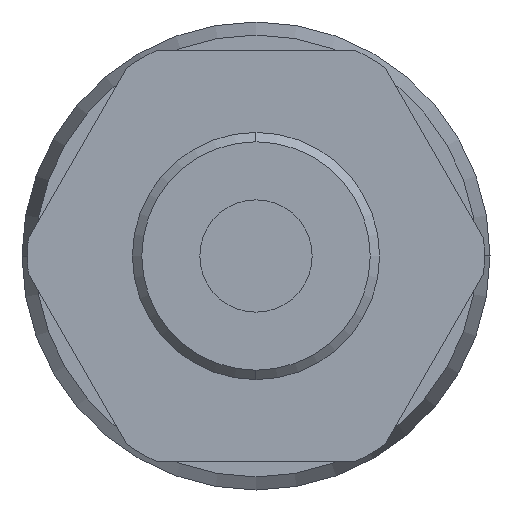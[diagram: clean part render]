
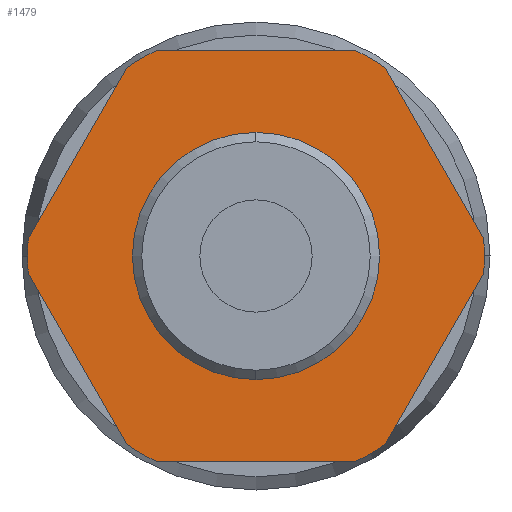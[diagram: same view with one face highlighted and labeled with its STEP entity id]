
A CAD part, left-side view. The second image highlights one B-rep face of the part: STEP entity #1479.
In plain terms, the highlighted planar face has unit normal (-1, 0, 0).
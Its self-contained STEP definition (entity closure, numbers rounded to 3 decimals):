
#20 = VERTEX_POINT ( 'NONE', #1521 ) ;
#21 = VECTOR ( 'NONE', #1346, 1000. ) ;
#22 = EDGE_CURVE ( 'NONE', #458, #400, #790, .T. ) ;
#27 = DIRECTION ( 'NONE',  ( 1., 0., 0. ) ) ;
#31 = DIRECTION ( 'NONE',  ( 0., 1., 0. ) ) ;
#34 = CARTESIAN_POINT ( 'NONE',  ( 0., 12.164, -0.931 ) ) ;
#50 = DIRECTION ( 'NONE',  ( 0., 0.5, 0.866 ) ) ;
#57 = ORIENTED_EDGE ( 'NONE', *, *, #147, .F. ) ;
#67 = VECTOR ( 'NONE', #1540, 1000. ) ;
#72 = DIRECTION ( 'NONE',  ( 1., 0., 0. ) ) ;
#81 = EDGE_LOOP ( 'NONE', ( #297, #1186, #910, #1124, #608, #189, #461, #571, #378, #1083, #1101, #402, #57 ) ) ;
#103 = EDGE_CURVE ( 'NONE', #220, #1452, #1320, .T. ) ;
#104 = CARTESIAN_POINT ( 'NONE',  ( 0., -5.276, 11. ) ) ;
#107 = VERTEX_POINT ( 'NONE', #996 ) ;
#147 = EDGE_CURVE ( 'NONE', #600, #107, #673, .T. ) ;
#167 = FACE_BOUND ( 'NONE', #456, .T. ) ;
#189 = ORIENTED_EDGE ( 'NONE', *, *, #1555, .F. ) ;
#214 = CARTESIAN_POINT ( 'NONE',  ( 0., 6.888, 10.069 ) ) ;
#220 = VERTEX_POINT ( 'NONE', #549 ) ;
#252 = VERTEX_POINT ( 'NONE', #1021 ) ;
#254 = CARTESIAN_POINT ( 'NONE',  ( 0., -6.351, -11. ) ) ;
#287 = EDGE_CURVE ( 'NONE', #501, #834, #1497, .T. ) ;
#297 = ORIENTED_EDGE ( 'NONE', *, *, #1335, .F. ) ;
#311 = CIRCLE ( 'NONE', #1099, 12.2 ) ;
#341 = CARTESIAN_POINT ( 'NONE',  ( 0., -5.276, -11. ) ) ;
#348 = VECTOR ( 'NONE', #1129, 1000. ) ;
#360 = AXIS2_PLACEMENT_3D ( 'NONE', #398, #1387, #31 ) ;
#363 = CARTESIAN_POINT ( 'NONE',  ( 0., 5.276, -11. ) ) ;
#378 = ORIENTED_EDGE ( 'NONE', *, *, #1031, .F. ) ;
#383 = LINE ( 'NONE', #434, #67 ) ;
#392 = DIRECTION ( 'NONE',  ( 0., -1., 0. ) ) ;
#398 = CARTESIAN_POINT ( 'NONE',  ( 0., 0., 0. ) ) ;
#400 = VERTEX_POINT ( 'NONE', #104 ) ;
#402 = ORIENTED_EDGE ( 'NONE', *, *, #1242, .F. ) ;
#408 = CARTESIAN_POINT ( 'NONE',  ( 0., 0., 0. ) ) ;
#414 = CARTESIAN_POINT ( 'NONE',  ( 0., 6.351, 11. ) ) ;
#427 = CARTESIAN_POINT ( 'NONE',  ( 0., 0., 0. ) ) ;
#429 = VECTOR ( 'NONE', #512, 1000. ) ;
#434 = CARTESIAN_POINT ( 'NONE',  ( 0., -12.702, 0. ) ) ;
#449 = DIRECTION ( 'NONE',  ( 1., 0., 0. ) ) ;
#456 = EDGE_LOOP ( 'NONE', ( #951, #976 ) ) ;
#458 = VERTEX_POINT ( 'NONE', #775 ) ;
#461 = ORIENTED_EDGE ( 'NONE', *, *, #287, .F. ) ;
#462 = VECTOR ( 'NONE', #661, 1000. ) ;
#501 = VERTEX_POINT ( 'NONE', #1370 ) ;
#508 = CARTESIAN_POINT ( 'NONE',  ( 0., 0., 0. ) ) ;
#512 = DIRECTION ( 'NONE',  ( 0., 1., 0. ) ) ;
#538 = CARTESIAN_POINT ( 'NONE',  ( 0., -12.164, -0.931 ) ) ;
#549 = CARTESIAN_POINT ( 'NONE',  ( 0., 3., 0. ) ) ;
#562 = DIRECTION ( 'NONE',  ( 1., 0., 0. ) ) ;
#566 = DIRECTION ( 'NONE',  ( 0., 1., 0. ) ) ;
#571 = ORIENTED_EDGE ( 'NONE', *, *, #616, .F. ) ;
#582 = AXIS2_PLACEMENT_3D ( 'NONE', #1447, #584, #1322 ) ;
#584 = DIRECTION ( 'NONE',  ( 1., 0., 0. ) ) ;
#600 = VERTEX_POINT ( 'NONE', #861 ) ;
#608 = ORIENTED_EDGE ( 'NONE', *, *, #1220, .F. ) ;
#616 = EDGE_CURVE ( 'NONE', #20, #501, #1279, .T. ) ;
#645 = AXIS2_PLACEMENT_3D ( 'NONE', #508, #27, #1366 ) ;
#653 = DIRECTION ( 'NONE',  ( 0., 1., 0. ) ) ;
#656 = CARTESIAN_POINT ( 'NONE',  ( 0., 6.351, -11. ) ) ;
#661 = DIRECTION ( 'NONE',  ( 0., -1., 0. ) ) ;
#673 = CIRCLE ( 'NONE', #919, 12.2 ) ;
#678 = EDGE_CURVE ( 'NONE', #757, #458, #1233, .T. ) ;
#683 = EDGE_CURVE ( 'NONE', #252, #941, #1534, .T. ) ;
#684 = DIRECTION ( 'NONE',  ( 0., 1., 0. ) ) ;
#685 = LINE ( 'NONE', #884, #348 ) ;
#718 = CARTESIAN_POINT ( 'NONE',  ( 0., 0., 0. ) ) ;
#739 = DIRECTION ( 'NONE',  ( -1., 0., 0. ) ) ;
#742 = CIRCLE ( 'NONE', #645, 12.2 ) ;
#757 = VERTEX_POINT ( 'NONE', #214 ) ;
#759 = CIRCLE ( 'NONE', #360, 12.2 ) ;
#775 = CARTESIAN_POINT ( 'NONE',  ( 0., 5.276, 11. ) ) ;
#790 = LINE ( 'NONE', #414, #462 ) ;
#794 = FACE_OUTER_BOUND ( 'NONE', #81, .T. ) ;
#807 = VERTEX_POINT ( 'NONE', #363 ) ;
#808 = CARTESIAN_POINT ( 'NONE',  ( 0., 0., 0. ) ) ;
#813 = AXIS2_PLACEMENT_3D ( 'NONE', #427, #449, #1429 ) ;
#834 = VERTEX_POINT ( 'NONE', #538 ) ;
#861 = CARTESIAN_POINT ( 'NONE',  ( 0., 12.2, 0. ) ) ;
#876 = VECTOR ( 'NONE', #50, 1000. ) ;
#884 = CARTESIAN_POINT ( 'NONE',  ( 0., 12.702, 0. ) ) ;
#910 = ORIENTED_EDGE ( 'NONE', *, *, #999, .F. ) ;
#919 = AXIS2_PLACEMENT_3D ( 'NONE', #808, #72, #684 ) ;
#926 = CIRCLE ( 'NONE', #1270, 3. ) ;
#941 = VERTEX_POINT ( 'NONE', #34 ) ;
#951 = ORIENTED_EDGE ( 'NONE', *, *, #103, .T. ) ;
#976 = ORIENTED_EDGE ( 'NONE', *, *, #1364, .T. ) ;
#978 = CIRCLE ( 'NONE', #813, 12.2 ) ;
#996 = CARTESIAN_POINT ( 'NONE',  ( 0., 12.164, 0.931 ) ) ;
#999 = EDGE_CURVE ( 'NONE', #807, #252, #742, .T. ) ;
#1002 = PLANE ( 'NONE',  #1271 ) ;
#1015 = DIRECTION ( 'NONE',  ( 0., 1., 0. ) ) ;
#1021 = CARTESIAN_POINT ( 'NONE',  ( 0., 6.888, -10.069 ) ) ;
#1031 = EDGE_CURVE ( 'NONE', #400, #20, #978, .T. ) ;
#1083 = ORIENTED_EDGE ( 'NONE', *, *, #22, .F. ) ;
#1099 = AXIS2_PLACEMENT_3D ( 'NONE', #718, #1330, #1446 ) ;
#1101 = ORIENTED_EDGE ( 'NONE', *, *, #678, .F. ) ;
#1110 = LINE ( 'NONE', #254, #429 ) ;
#1124 = ORIENTED_EDGE ( 'NONE', *, *, #1508, .F. ) ;
#1129 = DIRECTION ( 'NONE',  ( 0., -0.5, 0.866 ) ) ;
#1178 = AXIS2_PLACEMENT_3D ( 'NONE', #408, #1262, #1015 ) ;
#1186 = ORIENTED_EDGE ( 'NONE', *, *, #683, .F. ) ;
#1207 = CARTESIAN_POINT ( 'NONE',  ( 0., -6.888, -10.069 ) ) ;
#1220 = EDGE_CURVE ( 'NONE', #1374, #1381, #759, .T. ) ;
#1233 = CIRCLE ( 'NONE', #1178, 12.2 ) ;
#1242 = EDGE_CURVE ( 'NONE', #107, #757, #685, .T. ) ;
#1251 = CARTESIAN_POINT ( 'NONE',  ( 0., 3., 0. ) ) ;
#1256 = CARTESIAN_POINT ( 'NONE',  ( 0., 0., 0. ) ) ;
#1262 = DIRECTION ( 'NONE',  ( 1., 0., 0. ) ) ;
#1264 = CARTESIAN_POINT ( 'NONE',  ( 0., -6.351, 11. ) ) ;
#1270 = AXIS2_PLACEMENT_3D ( 'NONE', #1256, #1385, #653 ) ;
#1271 = AXIS2_PLACEMENT_3D ( 'NONE', #1251, #739, #392 ) ;
#1279 = LINE ( 'NONE', #1264, #21 ) ;
#1290 = CARTESIAN_POINT ( 'NONE',  ( 0., -3., 0. ) ) ;
#1320 = CIRCLE ( 'NONE', #582, 3. ) ;
#1322 = DIRECTION ( 'NONE',  ( 0., 1., 0. ) ) ;
#1330 = DIRECTION ( 'NONE',  ( 1., 0., 0. ) ) ;
#1335 = EDGE_CURVE ( 'NONE', #941, #600, #311, .T. ) ;
#1346 = DIRECTION ( 'NONE',  ( 0., -0.5, -0.866 ) ) ;
#1364 = EDGE_CURVE ( 'NONE', #1452, #220, #926, .T. ) ;
#1366 = DIRECTION ( 'NONE',  ( 0., 1., 0. ) ) ;
#1370 = CARTESIAN_POINT ( 'NONE',  ( 0., -12.164, 0.931 ) ) ;
#1374 = VERTEX_POINT ( 'NONE', #1207 ) ;
#1381 = VERTEX_POINT ( 'NONE', #341 ) ;
#1385 = DIRECTION ( 'NONE',  ( 1., 0., 0. ) ) ;
#1387 = DIRECTION ( 'NONE',  ( 1., 0., 0. ) ) ;
#1429 = DIRECTION ( 'NONE',  ( 0., 1., 0. ) ) ;
#1446 = DIRECTION ( 'NONE',  ( 0., 1., 0. ) ) ;
#1447 = CARTESIAN_POINT ( 'NONE',  ( 0., 0., 0. ) ) ;
#1452 = VERTEX_POINT ( 'NONE', #1290 ) ;
#1479 = ADVANCED_FACE ( 'NONE', ( #167, #794 ), #1002, .T. ) ;
#1497 = CIRCLE ( 'NONE', #1565, 12.2 ) ;
#1508 = EDGE_CURVE ( 'NONE', #1381, #807, #1110, .T. ) ;
#1521 = CARTESIAN_POINT ( 'NONE',  ( 0., -6.888, 10.069 ) ) ;
#1534 = LINE ( 'NONE', #656, #876 ) ;
#1540 = DIRECTION ( 'NONE',  ( 0., 0.5, -0.866 ) ) ;
#1553 = CARTESIAN_POINT ( 'NONE',  ( 0., 0., 0. ) ) ;
#1555 = EDGE_CURVE ( 'NONE', #834, #1374, #383, .T. ) ;
#1565 = AXIS2_PLACEMENT_3D ( 'NONE', #1553, #562, #566 ) ;
